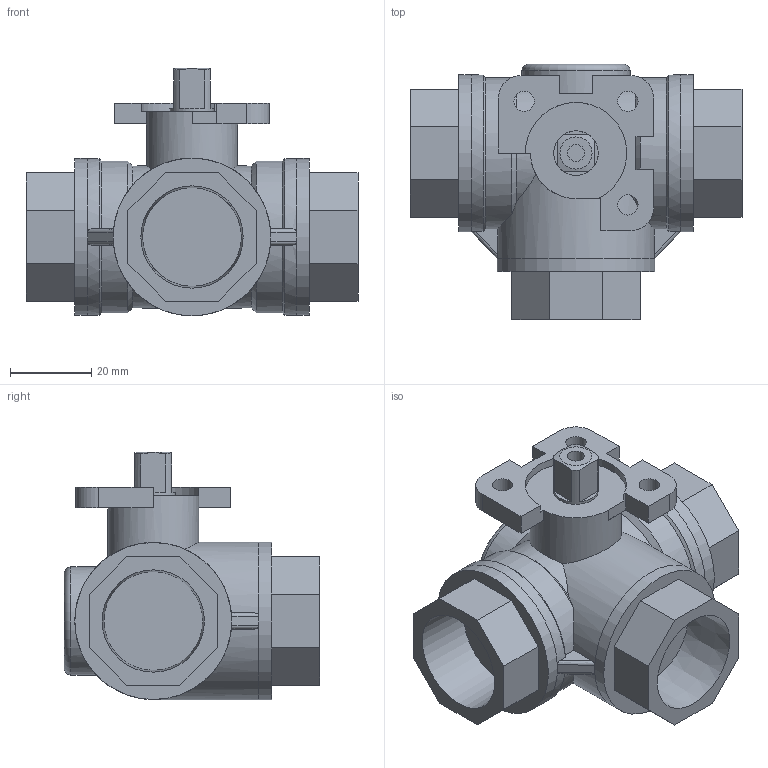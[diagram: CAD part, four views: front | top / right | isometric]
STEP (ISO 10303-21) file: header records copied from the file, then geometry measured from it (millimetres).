
FILE_DESCRIPTION((' '),'2;1');
FILE_NAME('N:\Technical Support\Private\Jomar Valve CAD\Actuation\A751T.L\A751TL-34FusionCopy.stp.step','2017-05-26T11:52:50',(' '),(' '),' ','ACIS',' ');
FILE_SCHEMA(('CONFIG_CONTROL_DESIGN'));
Length unit declared in the file: inch
Products named in the file (6): N:\Technical Support\Private\Jomar Valve CAD\Actuation\A751T.L\A751TL-34FusionCopy.stp.step; Body1; Body2; Body3; Body4; Body5
Assembly tree (5 placements, depth 2):
  N:\Technical Support\Private\Jomar Valve CAD\Actuation\A751T.L\A751TL-34FusionCopy.stp.step
    Body1
    Body2
    Body3
    Body4
    Body5
Bounding box: 81.53 x 62.69 x 60.83 mm (x, y, z)
Volume: 98766 mm3; surface area: 30088.9 mm2
Topology: 5 solids, 5 shells, 130 faces, 317 edges, 206 vertices
Faces by surface type: plane 62, bspline 32, cylinder 24, cone 11, torus 1
Full cylindrical faces by diameter (mm): 4.191 x1, 5 x3, 10.922 x2, 15.748 x1, 22.352 x1, 26.543 x1, 38.557 x2, 38.735 x1
Entity records: 4841 total; most frequent: CARTESIAN_POINT 1172, ORIENTED_EDGE 592, DIRECTION 543, EDGE_CURVE 296, VERTEX_POINT 202, AXIS2_PLACEMENT_3D 188, VECTOR 167, LINE 167
